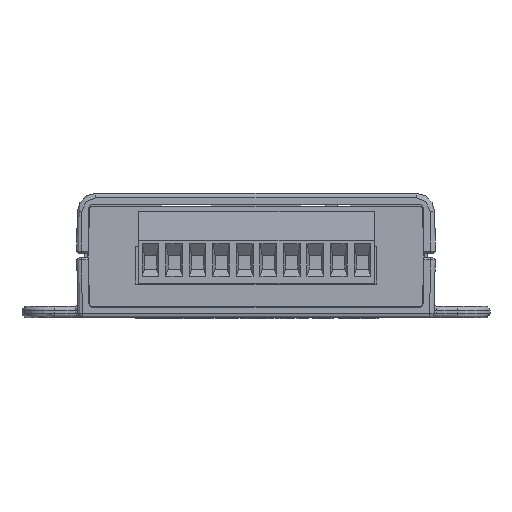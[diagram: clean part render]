
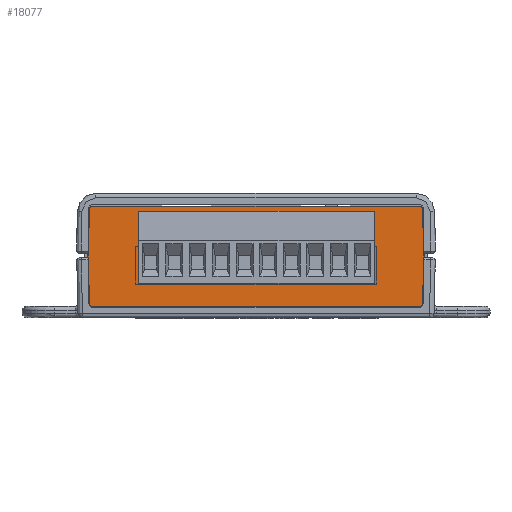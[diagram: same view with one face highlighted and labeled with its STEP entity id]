
A CAD part, front view. The second image highlights one B-rep face of the part: STEP entity #18077.
In plain terms, the highlighted planar face has unit normal (0, -1, 0) as drawn and (0, 0, 1) by its records, which use the part's own axes.
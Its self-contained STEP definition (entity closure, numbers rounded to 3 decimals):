
#18077=ADVANCED_FACE('NONE',(#36902),#36903,.T.);
#36902=FACE_OUTER_BOUND('',#60652,.T.);
#36903=PLANE('',#60653);
#60652=EDGE_LOOP('',(#112915,#112916,#112917,#112918,#112919,#112920,#112921,#112922,#112923,#112924));
#60653=AXIS2_PLACEMENT_3D('',#112925,#112926,#112927);
#112915=ORIENTED_EDGE('',*,*,#141889,.T.);
#112916=ORIENTED_EDGE('',*,*,#142028,.T.);
#112917=ORIENTED_EDGE('',*,*,#142024,.T.);
#112918=ORIENTED_EDGE('',*,*,#142007,.T.);
#112919=ORIENTED_EDGE('',*,*,#142029,.T.);
#112920=ORIENTED_EDGE('',*,*,#142010,.T.);
#112921=ORIENTED_EDGE('',*,*,#142030,.T.);
#112922=ORIENTED_EDGE('',*,*,#142015,.T.);
#112923=ORIENTED_EDGE('',*,*,#142022,.T.);
#112924=ORIENTED_EDGE('',*,*,#142031,.T.);
#112925=CARTESIAN_POINT('',(0.0,0.0,1.3));
#112926=DIRECTION('',(-0.0,0.0,1.0));
#112927=DIRECTION('',(1.0,0.0,0.0));
#141889=EDGE_CURVE('NONE',#172789,#172787,#172790,.T.);
#142007=EDGE_CURVE('NONE',#173020,#173018,#173021,.T.);
#142010=EDGE_CURVE('NONE',#173024,#173025,#173026,.T.);
#142015=EDGE_CURVE('NONE',#173033,#173034,#173035,.T.);
#142022=EDGE_CURVE('NONE',#173034,#173044,#173046,.T.);
#142024=EDGE_CURVE('NONE',#173048,#173020,#173049,.T.);
#142028=EDGE_CURVE('NONE',#172787,#173048,#173054,.T.);
#142029=EDGE_CURVE('NONE',#173018,#173024,#173055,.T.);
#142030=EDGE_CURVE('NONE',#173025,#173033,#173056,.T.);
#142031=EDGE_CURVE('NONE',#173044,#172789,#173057,.T.);
#172787=VERTEX_POINT('NONE',#218247);
#172789=VERTEX_POINT('NONE',#218250);
#172790=LINE('',#218251,#218252);
#173018=VERTEX_POINT('NONE',#219083);
#173020=VERTEX_POINT('NONE',#219086);
#173021=LINE('',#219087,#219088);
#173024=VERTEX_POINT('NONE',#219092);
#173025=VERTEX_POINT('NONE',#219093);
#173026=LINE('',#219094,#219095);
#173033=VERTEX_POINT('NONE',#219105);
#173034=VERTEX_POINT('NONE',#219106);
#173035=LINE('',#219107,#219108);
#173044=VERTEX_POINT('NONE',#219121);
#173046=LINE('',#219124,#219125);
#173048=VERTEX_POINT('NONE',#219127);
#173049=LINE('',#219128,#219129);
#173054=CIRCLE('',#219136,0.5);
#173055=CIRCLE('',#219137,0.5);
#173056=CIRCLE('',#219138,0.5);
#173057=CIRCLE('',#219139,0.5);
#218247=CARTESIAN_POINT('',(-35.395,21.777,1.3));
#218250=CARTESIAN_POINT('',(35.395,21.777,1.3));
#218251=CARTESIAN_POINT('',(-35.9,21.777,1.3));
#218252=VECTOR('',#244951,1000.0);
#219083=CARTESIAN_POINT('',(-35.895,0.505,1.3));
#219086=CARTESIAN_POINT('',(-36.258,10.9,1.3));
#219087=CARTESIAN_POINT('',(-36.258,10.901,1.3));
#219088=VECTOR('',#245036,1000.0);
#219092=CARTESIAN_POINT('',(-35.395,0.023,1.3));
#219093=CARTESIAN_POINT('',(35.395,0.023,1.3));
#219094=CARTESIAN_POINT('',(-35.9,0.023,1.3));
#219095=VECTOR('',#245038,1000.0);
#219105=CARTESIAN_POINT('',(35.895,0.505,1.3));
#219106=CARTESIAN_POINT('',(36.258,10.9,1.3));
#219107=CARTESIAN_POINT('',(36.258,10.901,1.3));
#219108=VECTOR('',#245042,1000.0);
#219121=CARTESIAN_POINT('',(35.895,21.295,1.3));
#219124=CARTESIAN_POINT('',(35.877,21.799,1.3));
#219125=VECTOR('',#245048,1000.0);
#219127=CARTESIAN_POINT('',(-35.895,21.295,1.3));
#219128=CARTESIAN_POINT('',(-35.877,21.799,1.3));
#219129=VECTOR('',#245049,1000.0);
#219136=AXIS2_PLACEMENT_3D('',#245052,#245053,#245054);
#219137=AXIS2_PLACEMENT_3D('',#245055,#245056,#245057);
#219138=AXIS2_PLACEMENT_3D('',#245058,#245059,#245060);
#219139=AXIS2_PLACEMENT_3D('',#245061,#245062,#245063);
#244951=DIRECTION('',(-1.0,0.0,-0.0));
#245036=DIRECTION('',(0.035,-0.999,0.0));
#245038=DIRECTION('',(1.0,-0.0,-0.0));
#245042=DIRECTION('',(0.035,0.999,0.));
#245048=DIRECTION('',(-0.035,0.999,-0.0));
#245049=DIRECTION('',(-0.035,-0.999,-0.0));
#245052=CARTESIAN_POINT('',(-35.395,21.277,1.3));
#245053=DIRECTION('',(0.0,-0.0,1.0));
#245054=DIRECTION('',(0.,1.,0.0));
#245055=CARTESIAN_POINT('',(-35.395,0.523,1.3));
#245056=DIRECTION('',(0.0,0.0,1.0));
#245057=DIRECTION('',(-0.999,-0.035,0.0));
#245058=CARTESIAN_POINT('',(35.395,0.523,1.3));
#245059=DIRECTION('',(0.0,0.0,1.0));
#245060=DIRECTION('',(0.,-1.,0.0));
#245061=CARTESIAN_POINT('',(35.395,21.277,1.3));
#245062=DIRECTION('',(0.,0.,1.0));
#245063=DIRECTION('',(0.999,0.035,0.));
